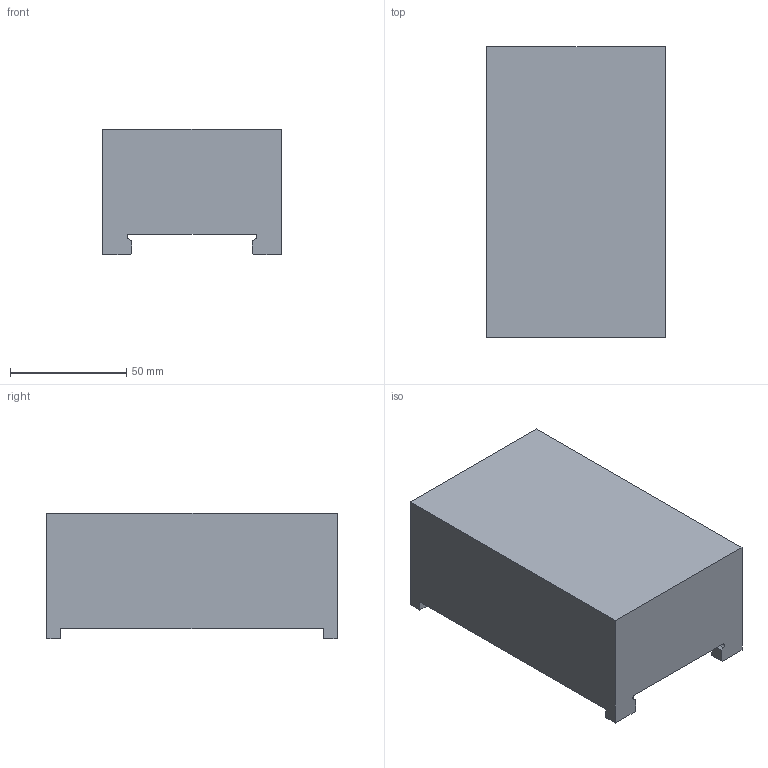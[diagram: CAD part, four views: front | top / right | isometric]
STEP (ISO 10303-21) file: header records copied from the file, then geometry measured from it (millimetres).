
FILE_DESCRIPTION (( 'STEP AP203' ), '1' );
FILE_NAME ('682430-54.STEP', '2020-05-15T08:00:24', ( '' ), ( '' ), 'SwSTEP 2.0', 'SolidWorks 2018', '' );
FILE_SCHEMA (( 'CONFIG_CONTROL_DESIGN' ));
Length unit declared in the file: millimetre
Products named in the file (2): 682430-54
Bounding box: 77 x 125 x 54 mm (x, y, z)
Volume: 448462.2 mm3; surface area: 41148.5 mm2
Topology: 1 solids, 1 shells, 36 faces, 102 edges, 68 vertices
Faces by surface type: plane 26, cylinder 10
Entity records: 1313 total; most frequent: CARTESIAN_POINT 232, ORIENTED_EDGE 204, DIRECTION 182, EDGE_CURVE 102, LINE 82, VECTOR 82, VERTEX_POINT 68, AXIS2_PLACEMENT_3D 50
